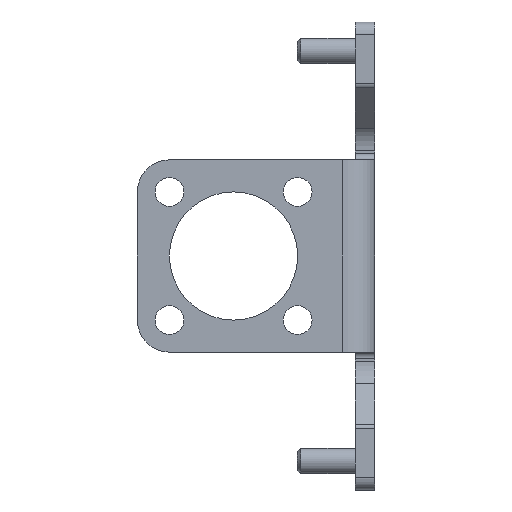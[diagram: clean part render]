
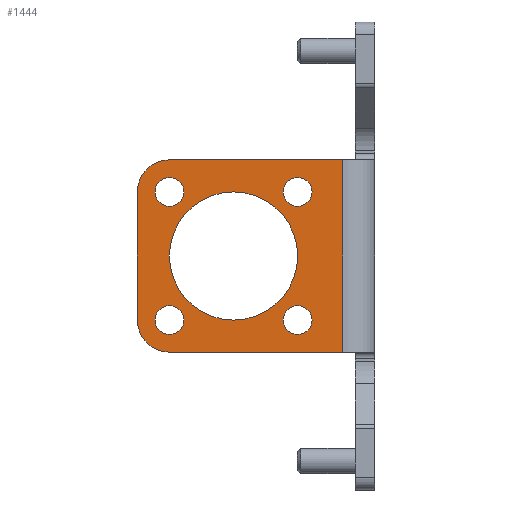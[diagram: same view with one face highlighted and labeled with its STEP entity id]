
A CAD part, left-side view. The second image highlights one B-rep face of the part: STEP entity #1444.
In plain terms, the highlighted planar face has unit normal (-1, 0, 0).
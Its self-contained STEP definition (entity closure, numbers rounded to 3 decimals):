
#92=CIRCLE('',#1562,2.25);
#93=CIRCLE('',#1563,2.25);
#94=CIRCLE('',#1564,2.25);
#95=CIRCLE('',#1565,2.25);
#96=CIRCLE('',#1566,10.);
#97=CIRCLE('',#1567,5.);
#98=CIRCLE('',#1568,5.);
#246=ORIENTED_EDGE('',*,*,#625,.F.);
#247=ORIENTED_EDGE('',*,*,#626,.F.);
#248=ORIENTED_EDGE('',*,*,#627,.F.);
#249=ORIENTED_EDGE('',*,*,#628,.F.);
#250=ORIENTED_EDGE('',*,*,#629,.F.);
#251=ORIENTED_EDGE('',*,*,#593,.F.);
#252=ORIENTED_EDGE('',*,*,#630,.T.);
#253=ORIENTED_EDGE('',*,*,#589,.T.);
#254=ORIENTED_EDGE('',*,*,#631,.T.);
#255=ORIENTED_EDGE('',*,*,#632,.T.);
#256=ORIENTED_EDGE('',*,*,#633,.F.);
#589=EDGE_CURVE('',#784,#785,#928,.T.);
#593=EDGE_CURVE('',#788,#789,#932,.T.);
#625=EDGE_CURVE('',#820,#820,#92,.F.);
#626=EDGE_CURVE('',#821,#821,#93,.F.);
#627=EDGE_CURVE('',#822,#822,#94,.F.);
#628=EDGE_CURVE('',#823,#823,#95,.F.);
#629=EDGE_CURVE('',#824,#824,#96,.F.);
#630=EDGE_CURVE('',#788,#784,#97,.F.);
#631=EDGE_CURVE('',#785,#825,#98,.F.);
#632=EDGE_CURVE('',#825,#826,#962,.T.);
#633=EDGE_CURVE('',#789,#826,#963,.T.);
#784=VERTEX_POINT('',#2205);
#785=VERTEX_POINT('',#2206);
#788=VERTEX_POINT('',#2214);
#789=VERTEX_POINT('',#2215);
#820=VERTEX_POINT('',#2285);
#821=VERTEX_POINT('',#2287);
#822=VERTEX_POINT('',#2289);
#823=VERTEX_POINT('',#2291);
#824=VERTEX_POINT('',#2293);
#825=VERTEX_POINT('',#2296);
#826=VERTEX_POINT('',#2298);
#928=LINE('',#2204,#1050);
#932=LINE('',#2213,#1054);
#962=LINE('',#2297,#1084);
#963=LINE('',#2299,#1085);
#1050=VECTOR('',#1759,1000.);
#1054=VECTOR('',#1765,1000.);
#1084=VECTOR('',#1827,1000.);
#1085=VECTOR('',#1828,1000.);
#1180=EDGE_LOOP('',(#246));
#1181=EDGE_LOOP('',(#247));
#1182=EDGE_LOOP('',(#248));
#1183=EDGE_LOOP('',(#249));
#1184=EDGE_LOOP('',(#250));
#1185=EDGE_LOOP('',(#251,#252,#253,#254,#255,#256));
#1296=FACE_BOUND('',#1180,.T.);
#1297=FACE_BOUND('',#1181,.T.);
#1298=FACE_BOUND('',#1182,.T.);
#1299=FACE_BOUND('',#1183,.T.);
#1300=FACE_BOUND('',#1184,.T.);
#1301=FACE_BOUND('',#1185,.T.);
#1403=PLANE('',#1561);
#1444=ADVANCED_FACE('',(#1296,#1297,#1298,#1299,#1300,#1301),#1403,.F.);
#1561=AXIS2_PLACEMENT_3D('',#2283,#1811,#1812);
#1562=AXIS2_PLACEMENT_3D('',#2284,#1813,#1814);
#1563=AXIS2_PLACEMENT_3D('',#2286,#1815,#1816);
#1564=AXIS2_PLACEMENT_3D('',#2288,#1817,#1818);
#1565=AXIS2_PLACEMENT_3D('',#2290,#1819,#1820);
#1566=AXIS2_PLACEMENT_3D('',#2292,#1821,#1822);
#1567=AXIS2_PLACEMENT_3D('',#2294,#1823,#1824);
#1568=AXIS2_PLACEMENT_3D('',#2295,#1825,#1826);
#1759=DIRECTION('',(0.,0.,-1.));
#1765=DIRECTION('',(0.,-1.,0.));
#1811=DIRECTION('',(1.,0.,0.));
#1812=DIRECTION('',(0.,0.,-1.));
#1813=DIRECTION('',(1.,0.,0.));
#1814=DIRECTION('',(0.,0.,-1.));
#1815=DIRECTION('',(1.,0.,0.));
#1816=DIRECTION('',(0.,0.,-1.));
#1817=DIRECTION('',(1.,0.,0.));
#1818=DIRECTION('',(0.,0.,-1.));
#1819=DIRECTION('',(1.,0.,0.));
#1820=DIRECTION('',(0.,0.,-1.));
#1821=DIRECTION('',(1.,0.,0.));
#1822=DIRECTION('',(0.,0.,-1.));
#1823=DIRECTION('',(1.,0.,0.));
#1824=DIRECTION('',(0.,0.,-1.));
#1825=DIRECTION('',(1.,0.,0.));
#1826=DIRECTION('',(0.,0.,-1.));
#1827=DIRECTION('',(0.,-1.,0.));
#1828=DIRECTION('',(0.,0.,-1.));
#2204=CARTESIAN_POINT('',(0.,37.,36.5));
#2205=CARTESIAN_POINT('',(0.,37.,10.));
#2206=CARTESIAN_POINT('',(0.,37.,-10.));
#2213=CARTESIAN_POINT('',(0.,40.,15.));
#2214=CARTESIAN_POINT('',(0.,32.,15.));
#2215=CARTESIAN_POINT('',(0.,5.,15.));
#2283=CARTESIAN_POINT('',(0.,37.,36.5));
#2284=CARTESIAN_POINT('',(0.,12.,10.));
#2285=CARTESIAN_POINT('',(0.,12.,7.75));
#2286=CARTESIAN_POINT('',(0.,32.,-10.));
#2287=CARTESIAN_POINT('',(0.,32.,-12.25));
#2288=CARTESIAN_POINT('',(0.,32.,10.));
#2289=CARTESIAN_POINT('',(0.,32.,7.75));
#2290=CARTESIAN_POINT('',(0.,12.,-10.));
#2291=CARTESIAN_POINT('',(0.,12.,-12.25));
#2292=CARTESIAN_POINT('',(0.,22.,0.));
#2293=CARTESIAN_POINT('',(0.,22.,-10.));
#2294=CARTESIAN_POINT('',(0.,32.,10.));
#2295=CARTESIAN_POINT('',(0.,32.,-10.));
#2296=CARTESIAN_POINT('',(0.,32.,-15.));
#2297=CARTESIAN_POINT('',(0.,40.,-15.));
#2298=CARTESIAN_POINT('',(0.,5.,-15.));
#2299=CARTESIAN_POINT('',(0.,5.,36.5));
